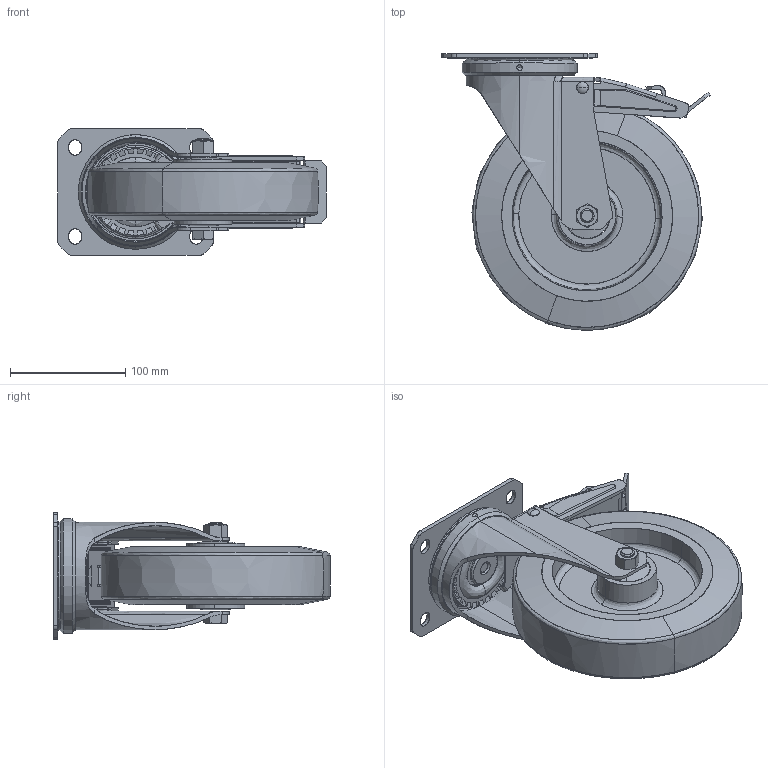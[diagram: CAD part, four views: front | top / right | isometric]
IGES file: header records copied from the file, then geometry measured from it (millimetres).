
Start section: SolidWorks IGES file using analytic representation for surfaces
Global section: file name: S:\Tyokansio\ML\3DWEBMALLIT\IGES\401190_IGES.IGS; native system: SolidWorks 2011; preprocessor: SolidWorks 2011; author: markola; date: 120604.131058; units: millimetre
Bounding box: 232.73 x 239.59 x 110 mm (x, y, z)
Surface area: 284963.9 mm2 (no closed solid volume)
Topology: 0 solids, 0 shells, 523 faces, 5899 edges, 5894 vertices
Faces by surface type: bspline 360, revolution 163
